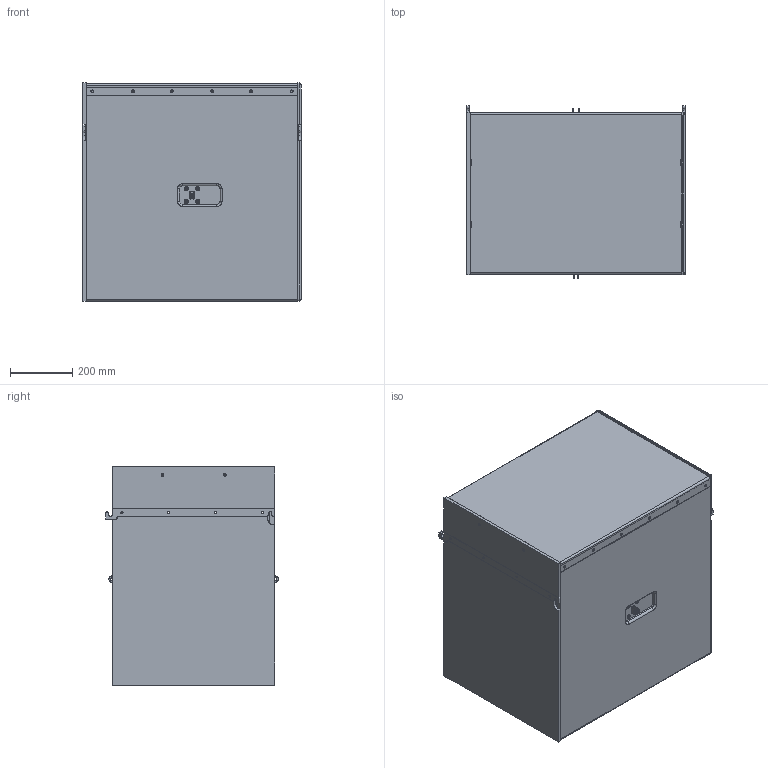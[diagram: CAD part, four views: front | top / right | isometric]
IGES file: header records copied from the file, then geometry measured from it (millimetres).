
Start section: SolidWorks IGES file using analytic representation for surfaces
Global section: file name: D:\Entwicklungen\Projekte aktuell\C-Serie\Solid\WEB\Compact\C-Sub-3D.IGS; native system: SolidWorks 2009; preprocessor: SolidWorks 2009; author: Nico; date: 240918.125822; units: millimetre
Bounding box: 700 x 554.5 x 700 mm (x, y, z)
Surface area: 2606308.2 mm2 (no closed solid volume)
Topology: 0 solids, 0 shells, 290 faces, 4824 edges, 4816 vertices
Faces by surface type: revolution 168, bspline 122
